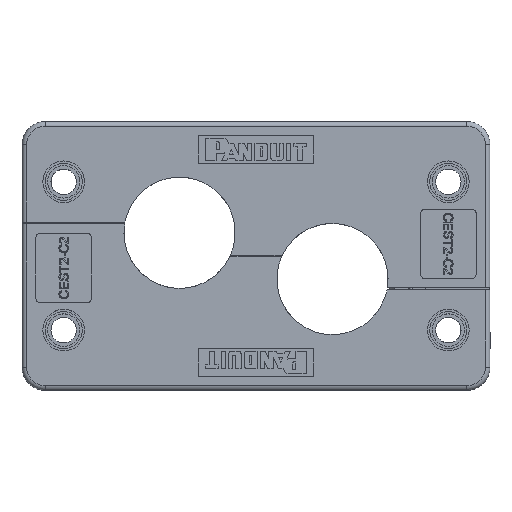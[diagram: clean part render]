
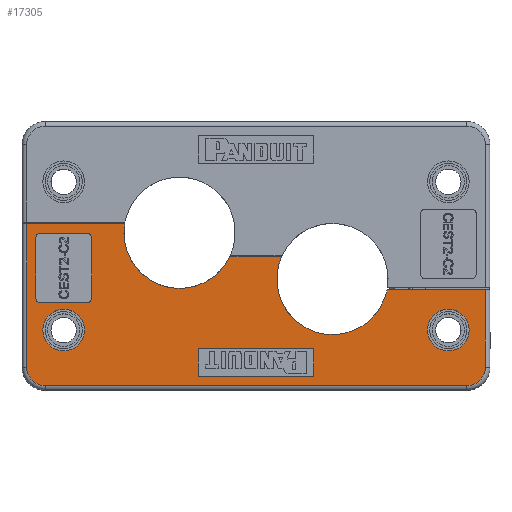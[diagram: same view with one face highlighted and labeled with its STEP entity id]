
A CAD part, top view. The second image highlights one B-rep face of the part: STEP entity #17305.
In plain terms, the highlighted planar face has unit normal (0, 0, 1) as drawn and (0, 0, -1) by its records, which use the part's own axes.
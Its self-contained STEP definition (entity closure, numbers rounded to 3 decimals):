
#209=FACE_BOUND('',#3099,.T.);
#210=FACE_BOUND('',#3100,.T.);
#211=FACE_BOUND('',#3101,.T.);
#212=FACE_BOUND('',#3102,.T.);
#584=CIRCLE('',#18601,12.);
#585=CIRCLE('',#18602,12.);
#586=CIRCLE('',#18603,4.);
#587=CIRCLE('',#18604,4.);
#588=CIRCLE('',#18605,1.);
#589=CIRCLE('',#18606,1.);
#590=CIRCLE('',#18607,1.);
#591=CIRCLE('',#18608,1.);
#592=CIRCLE('',#18609,4.5);
#593=CIRCLE('',#18610,4.5);
#2042=FACE_OUTER_BOUND('',#3098,.T.);
#3098=EDGE_LOOP('',(#14484,#14485,#14486,#14487,#14488,#14489,#14490,#14491,
#14492,#14493));
#3099=EDGE_LOOP('',(#14494,#14495,#14496,#14497,#14498,#14499,#14500,#14501));
#3100=EDGE_LOOP('',(#14502,#14503,#14504,#14505));
#3101=EDGE_LOOP('',(#14506));
#3102=EDGE_LOOP('',(#14507));
#4598=LINE('',#28702,#6308);
#4600=LINE('',#28707,#6310);
#4601=LINE('',#28711,#6311);
#4602=LINE('',#28714,#6312);
#4603=LINE('',#28718,#6313);
#4604=LINE('',#28721,#6314);
#4605=LINE('',#28724,#6315);
#4606=LINE('',#28728,#6316);
#4607=LINE('',#28732,#6317);
#4608=LINE('',#28736,#6318);
#4609=LINE('',#28740,#6319);
#4610=LINE('',#28742,#6320);
#4611=LINE('',#28744,#6321);
#4612=LINE('',#28745,#6322);
#6308=VECTOR('',#21923,10.);
#6310=VECTOR('',#21927,10.);
#6311=VECTOR('',#21930,10.);
#6312=VECTOR('',#21933,10.);
#6313=VECTOR('',#21936,10.);
#6314=VECTOR('',#21939,10.);
#6315=VECTOR('',#21940,10.);
#6316=VECTOR('',#21943,10.);
#6317=VECTOR('',#21946,10.);
#6318=VECTOR('',#21949,10.);
#6319=VECTOR('',#21952,10.);
#6320=VECTOR('',#21953,10.);
#6321=VECTOR('',#21954,10.);
#6322=VECTOR('',#21955,10.);
#8013=VERTEX_POINT('',#28699);
#8014=VERTEX_POINT('',#28701);
#8015=VERTEX_POINT('',#28705);
#8016=VERTEX_POINT('',#28706);
#8017=VERTEX_POINT('',#28708);
#8018=VERTEX_POINT('',#28710);
#8019=VERTEX_POINT('',#28713);
#8020=VERTEX_POINT('',#28715);
#8021=VERTEX_POINT('',#28717);
#8022=VERTEX_POINT('',#28719);
#8023=VERTEX_POINT('',#28722);
#8024=VERTEX_POINT('',#28723);
#8025=VERTEX_POINT('',#28725);
#8026=VERTEX_POINT('',#28727);
#8027=VERTEX_POINT('',#28729);
#8028=VERTEX_POINT('',#28731);
#8029=VERTEX_POINT('',#28733);
#8030=VERTEX_POINT('',#28735);
#8031=VERTEX_POINT('',#28738);
#8032=VERTEX_POINT('',#28739);
#8033=VERTEX_POINT('',#28741);
#8034=VERTEX_POINT('',#28743);
#8035=VERTEX_POINT('',#28746);
#8036=VERTEX_POINT('',#28748);
#10266=EDGE_CURVE('',#8014,#8013,#4598,.T.);
#10268=EDGE_CURVE('',#8015,#8016,#4600,.T.);
#10269=EDGE_CURVE('',#8016,#8017,#584,.T.);
#10270=EDGE_CURVE('',#8018,#8017,#4601,.T.);
#10271=EDGE_CURVE('',#8018,#8014,#585,.T.);
#10272=EDGE_CURVE('',#8019,#8013,#4602,.T.);
#10273=EDGE_CURVE('',#8020,#8019,#586,.T.);
#10274=EDGE_CURVE('',#8021,#8020,#4603,.T.);
#10275=EDGE_CURVE('',#8022,#8021,#587,.T.);
#10276=EDGE_CURVE('',#8015,#8022,#4604,.T.);
#10277=EDGE_CURVE('',#8023,#8024,#4605,.T.);
#10278=EDGE_CURVE('',#8025,#8024,#588,.T.);
#10279=EDGE_CURVE('',#8025,#8026,#4606,.T.);
#10280=EDGE_CURVE('',#8027,#8026,#589,.T.);
#10281=EDGE_CURVE('',#8027,#8028,#4607,.T.);
#10282=EDGE_CURVE('',#8029,#8028,#590,.T.);
#10283=EDGE_CURVE('',#8029,#8030,#4608,.T.);
#10284=EDGE_CURVE('',#8023,#8030,#591,.T.);
#10285=EDGE_CURVE('',#8031,#8032,#4609,.T.);
#10286=EDGE_CURVE('',#8032,#8033,#4610,.T.);
#10287=EDGE_CURVE('',#8033,#8034,#4611,.T.);
#10288=EDGE_CURVE('',#8034,#8031,#4612,.T.);
#10289=EDGE_CURVE('',#8035,#8035,#592,.T.);
#10290=EDGE_CURVE('',#8036,#8036,#593,.T.);
#14484=ORIENTED_EDGE('',*,*,#10268,.T.);
#14485=ORIENTED_EDGE('',*,*,#10269,.T.);
#14486=ORIENTED_EDGE('',*,*,#10270,.F.);
#14487=ORIENTED_EDGE('',*,*,#10271,.T.);
#14488=ORIENTED_EDGE('',*,*,#10266,.T.);
#14489=ORIENTED_EDGE('',*,*,#10272,.F.);
#14490=ORIENTED_EDGE('',*,*,#10273,.F.);
#14491=ORIENTED_EDGE('',*,*,#10274,.F.);
#14492=ORIENTED_EDGE('',*,*,#10275,.F.);
#14493=ORIENTED_EDGE('',*,*,#10276,.F.);
#14494=ORIENTED_EDGE('',*,*,#10277,.T.);
#14495=ORIENTED_EDGE('',*,*,#10278,.F.);
#14496=ORIENTED_EDGE('',*,*,#10279,.T.);
#14497=ORIENTED_EDGE('',*,*,#10280,.F.);
#14498=ORIENTED_EDGE('',*,*,#10281,.T.);
#14499=ORIENTED_EDGE('',*,*,#10282,.F.);
#14500=ORIENTED_EDGE('',*,*,#10283,.T.);
#14501=ORIENTED_EDGE('',*,*,#10284,.F.);
#14502=ORIENTED_EDGE('',*,*,#10285,.T.);
#14503=ORIENTED_EDGE('',*,*,#10286,.T.);
#14504=ORIENTED_EDGE('',*,*,#10287,.T.);
#14505=ORIENTED_EDGE('',*,*,#10288,.T.);
#14506=ORIENTED_EDGE('',*,*,#10289,.T.);
#14507=ORIENTED_EDGE('',*,*,#10290,.T.);
#16437=PLANE('',#18600);
#17305=ADVANCED_FACE('',(#2042,#209,#210,#211,#212),#16437,.F.);
#18600=AXIS2_PLACEMENT_3D('',#28704,#21925,#21926);
#18601=AXIS2_PLACEMENT_3D('',#28709,#21928,#21929);
#18602=AXIS2_PLACEMENT_3D('',#28712,#21931,#21932);
#18603=AXIS2_PLACEMENT_3D('',#28716,#21934,#21935);
#18604=AXIS2_PLACEMENT_3D('',#28720,#21937,#21938);
#18605=AXIS2_PLACEMENT_3D('',#28726,#21941,#21942);
#18606=AXIS2_PLACEMENT_3D('',#28730,#21944,#21945);
#18607=AXIS2_PLACEMENT_3D('',#28734,#21947,#21948);
#18608=AXIS2_PLACEMENT_3D('',#28737,#21950,#21951);
#18609=AXIS2_PLACEMENT_3D('',#28747,#21956,#21957);
#18610=AXIS2_PLACEMENT_3D('',#28749,#21958,#21959);
#21923=DIRECTION('',(1.,0.,0.));
#21925=DIRECTION('center_axis',(0.,0.,
1.));
#21926=DIRECTION('ref_axis',(1.,0.,0.));
#21927=DIRECTION('',(1.,0.,0.));
#21928=DIRECTION('center_axis',(0.,0.,
1.));
#21929=DIRECTION('ref_axis',(1.,0.,0.));
#21930=DIRECTION('',(-1.,0.,0.));
#21931=DIRECTION('center_axis',(0.,0.,
1.));
#21932=DIRECTION('ref_axis',(1.,0.,0.));
#21933=DIRECTION('',(0.,1.,0.));
#21934=DIRECTION('center_axis',(0.,0.,
1.));
#21935=DIRECTION('ref_axis',(0.707,-0.707,0.));
#21936=DIRECTION('',(1.,0.,0.));
#21937=DIRECTION('center_axis',(0.,0.,
1.));
#21938=DIRECTION('ref_axis',(-0.707,-0.707,0.));
#21939=DIRECTION('',(0.,-1.,0.));
#21940=DIRECTION('',(0.,-1.,0.));
#21941=DIRECTION('center_axis',(0.,0.,
-1.));
#21942=DIRECTION('ref_axis',(-0.707,-0.707,0.));
#21943=DIRECTION('',(1.,0.,0.));
#21944=DIRECTION('center_axis',(0.,0.,
-1.));
#21945=DIRECTION('ref_axis',(0.707,-0.707,0.));
#21946=DIRECTION('',(0.,1.,0.));
#21947=DIRECTION('center_axis',(0.,0.,
-1.));
#21948=DIRECTION('ref_axis',(0.707,0.707,0.));
#21949=DIRECTION('',(-1.,0.,0.));
#21950=DIRECTION('center_axis',(0.,0.,
-1.));
#21951=DIRECTION('ref_axis',(-0.707,0.707,0.));
#21952=DIRECTION('',(0.,-1.,0.));
#21953=DIRECTION('',(1.,0.,0.));
#21954=DIRECTION('',(0.,1.,0.));
#21955=DIRECTION('',(-1.,0.,0.));
#21956=DIRECTION('center_axis',(0.,0.,
1.));
#21957=DIRECTION('ref_axis',(1.,0.,0.));
#21958=DIRECTION('center_axis',(0.,0.,
1.));
#21959=DIRECTION('ref_axis',(1.,0.,0.));
#28699=CARTESIAN_POINT('',(49.5,6.9,-18.));
#28701=CARTESIAN_POINT('',(28.349,6.9,-18.));
#28702=CARTESIAN_POINT('',(7.278,6.9,-18.));
#28704=CARTESIAN_POINT('Origin',(3.963,-17.416,-18.));
#28705=CARTESIAN_POINT('',(-49.5,-7.3,-18.));
#28706=CARTESIAN_POINT('',(-28.278,-7.3,-18.));
#28707=CARTESIAN_POINT('',(-18.66,-7.3,-18.));
#28708=CARTESIAN_POINT('',(-5.546,-0.1,-18.));
#28709=CARTESIAN_POINT('Origin',(-16.5,-5.,-18.));
#28710=CARTESIAN_POINT('',(5.638,-0.1,-18.));
#28711=CARTESIAN_POINT('',(32.5,-0.1,-18.));
#28712=CARTESIAN_POINT('Origin',(16.5,5.,-18.));
#28713=CARTESIAN_POINT('',(49.5,-24.,-18.));
#28714=CARTESIAN_POINT('',(49.5,-23.208,-18.));
#28715=CARTESIAN_POINT('',(45.5,-28.,-18.));
#28716=CARTESIAN_POINT('Origin',(45.5,-24.,-18.));
#28717=CARTESIAN_POINT('',(-45.5,-28.,-18.));
#28718=CARTESIAN_POINT('',(-23.269,-28.,-18.));
#28719=CARTESIAN_POINT('',(-49.5,-24.,-18.));
#28720=CARTESIAN_POINT('Origin',(-45.5,-24.,-18.));
#28721=CARTESIAN_POINT('',(-49.5,5.792,-18.));
#28722=CARTESIAN_POINT('',(35.5,3.9,-18.));
#28723=CARTESIAN_POINT('',(35.5,-9.1,-18.));
#28724=CARTESIAN_POINT('',(35.5,-13.758,-18.));
#28725=CARTESIAN_POINT('',(36.5,-10.1,-18.));
#28726=CARTESIAN_POINT('Origin',(36.5,-9.1,-18.));
#28727=CARTESIAN_POINT('',(46.5,-10.1,-18.));
#28728=CARTESIAN_POINT('',(25.731,-10.1,-18.));
#28729=CARTESIAN_POINT('',(47.5,-9.1,-18.));
#28730=CARTESIAN_POINT('Origin',(46.5,-9.1,-18.));
#28731=CARTESIAN_POINT('',(47.5,3.9,-18.));
#28732=CARTESIAN_POINT('',(47.5,-6.258,-18.));
#28733=CARTESIAN_POINT('',(46.5,4.9,-18.));
#28734=CARTESIAN_POINT('Origin',(46.5,3.9,-18.));
#28735=CARTESIAN_POINT('',(36.5,4.9,-18.));
#28736=CARTESIAN_POINT('',(19.731,4.9,-18.));
#28737=CARTESIAN_POINT('Origin',(36.5,3.9,-18.));
#28738=CARTESIAN_POINT('',(-12.5,-20.,-18.));
#28739=CARTESIAN_POINT('',(-12.5,-26.,-18.));
#28740=CARTESIAN_POINT('',(-12.5,-21.708,-18.));
#28741=CARTESIAN_POINT('',(12.5,-26.,-18.));
#28742=CARTESIAN_POINT('',(8.231,-26.,-18.));
#28743=CARTESIAN_POINT('',(12.5,-20.,-18.));
#28744=CARTESIAN_POINT('',(12.5,-18.708,-18.));
#28745=CARTESIAN_POINT('',(-4.269,-20.,-18.));
#28746=CARTESIAN_POINT('',(37.,-16.,-18.));
#28747=CARTESIAN_POINT('Origin',(41.5,-16.,-18.));
#28748=CARTESIAN_POINT('',(-46.,-16.,-18.));
#28749=CARTESIAN_POINT('Origin',(-41.5,-16.,-18.));
